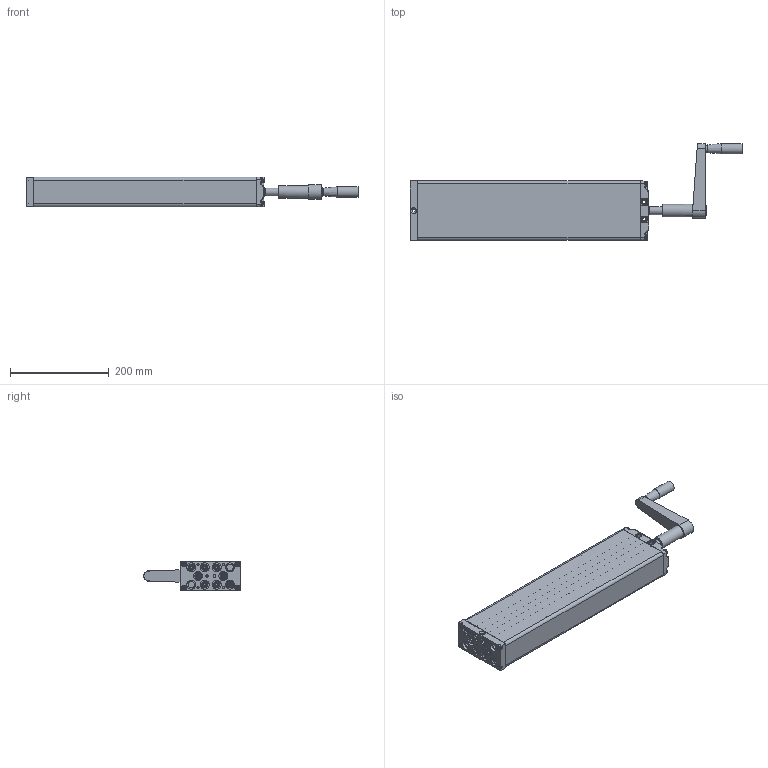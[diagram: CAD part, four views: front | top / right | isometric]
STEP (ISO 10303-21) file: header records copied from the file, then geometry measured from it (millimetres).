
FILE_DESCRIPTION(/* description */ ('Unknown'),/* implementation_level */ '2;1');
FILE_NAME(/* name */ '312.20193 Pumpe PB 8418 W mit Handkurbel',/* time_stamp */ '2016-11-24T16:43:08+01:00',/* author */ ('Unknown'),/* organization */ ('Unknown'),/* preprocessor_version */ 'ST-DEVELOPER v16.7',/* originating_system */ 'DEX',/* authorisation */ $);
FILE_SCHEMA (('AUTOMOTIVE_DESIGN {1 0 10303 214 3 1 1}'));
Products named in the file (22): 102.00193; 115.10023; 125.00031; 115.00007; 142.00021; 125.00021; 113.00005; 128.00001; 125.00052; 126.00013; 125.00053; 127.00014; Handgriff; 142.00013; 125.00143; 115.00140; 126.00006; 122.00040; 119.00043; 126.00036; 142.00057; 142.00017
Assembly tree (36 placements, depth 3):
  102.00193
    115.10023  x8
      125.00031
      115.00007
      142.00021
      125.00021
    113.00005
      128.00001
      125.00052
      126.00013
      125.00053
      127.00014
      Handgriff
    142.00013  x8
    125.00143
    115.00140
      126.00006
      122.00040
    119.00043
    126.00036
    142.00057
    142.00017  x2
Bounding box: 670.75 x 195.5 x 60.3 mm (x, y, z)
Volume: 774537 mm3; surface area: 475744.5 mm2
Topology: 46 solids, 46 shells, 2177 faces, 4972 edges, 2915 vertices
Faces by surface type: plane 775, cylinder 502, bspline 380, cone 360, torus 102, sphere 58
Full cylindrical faces by diameter (mm): 3.5 x8, 4 x2, 4.1 x8, 4.134 x4, 4.2 x9, 4.917 x4, 5 x8, 5.8 x4, 6 x2, 6.8 x1, 6.917 x16, 8 x18, 9 x8, 9.8 x8, 10 x6, 10.4 x1, 10.5 x4, 12.5 x8, 12.8 x1, 13 x27, 13.9 x16, 14 x1, 16 x2, 17 x1, 18 x11, 19 x1, 20.6 x1, 21 x1, 22 x1, 25.5 x1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
Entity records: 63563 total; most frequent: CARTESIAN_POINT 30444, ORIENTED_EDGE 5318, DIRECTION 4749, EDGE_CURVE 2659, AXIS2_PLACEMENT_3D 1850, VERTEX_POINT 1690, FACE_BOUND 1519, EDGE_LOOP 1516
